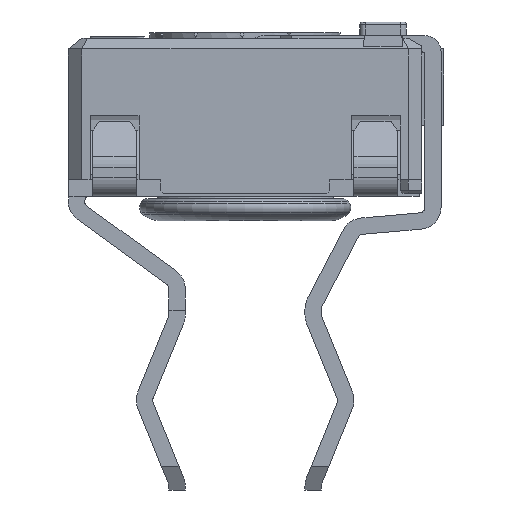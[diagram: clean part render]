
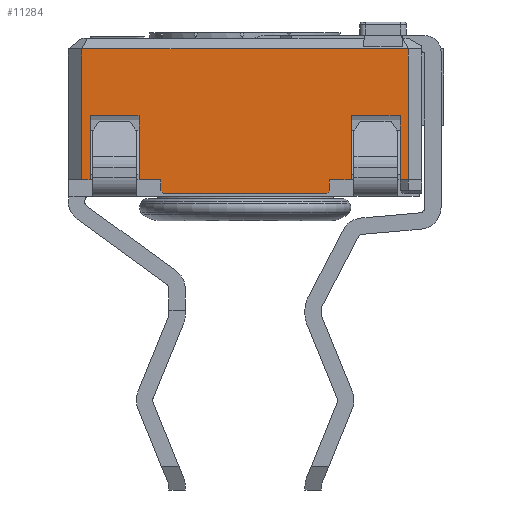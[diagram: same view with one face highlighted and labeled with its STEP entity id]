
A CAD part, left-side view. The second image highlights one B-rep face of the part: STEP entity #11284.
In plain terms, the highlighted planar face has unit normal (-1, 0, 0).
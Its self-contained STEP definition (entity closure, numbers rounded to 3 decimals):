
#1020=FACE_OUTER_BOUND('',#1622,.T.);
#1622=EDGE_LOOP('',(#9661,#9662,#9663,#9664,#9665,#9666,#9667,#9668,#9669,
#9670,#9671,#9672,#9673,#9674,#9675,#9676,#9677,#9678));
#2360=LINE('',#17162,#3632);
#2478=LINE('',#17423,#3750);
#2484=LINE('',#17436,#3756);
#2490=LINE('',#17447,#3762);
#2496=LINE('',#17458,#3768);
#2501=LINE('',#17468,#3773);
#2504=LINE('',#17474,#3776);
#2536=LINE('',#17536,#3808);
#2560=LINE('',#17591,#3832);
#2572=LINE('',#17611,#3844);
#2574=LINE('',#17616,#3846);
#2583=LINE('',#17635,#3855);
#2585=LINE('',#17638,#3857);
#2605=LINE('',#17679,#3877);
#2782=LINE('',#18123,#4054);
#2795=LINE('',#18147,#4067);
#2796=LINE('',#18149,#4068);
#2797=LINE('',#18151,#4069);
#3632=VECTOR('',#13887,10.);
#3750=VECTOR('',#14071,10.);
#3756=VECTOR('',#14079,10.);
#3762=VECTOR('',#14085,10.);
#3768=VECTOR('',#14093,10.);
#3773=VECTOR('',#14100,10.);
#3776=VECTOR('',#14105,10.);
#3808=VECTOR('',#14147,10.);
#3832=VECTOR('',#14199,10.);
#3844=VECTOR('',#14219,10.);
#3846=VECTOR('',#14223,10.);
#3855=VECTOR('',#14244,10.);
#3857=VECTOR('',#14248,10.);
#3877=VECTOR('',#14282,10.);
#4054=VECTOR('',#14707,10.);
#4067=VECTOR('',#14728,10.);
#4068=VECTOR('',#14731,10.);
#4069=VECTOR('',#14734,10.);
#4845=VERTEX_POINT('',#17159);
#4846=VERTEX_POINT('',#17161);
#4955=VERTEX_POINT('',#17420);
#4956=VERTEX_POINT('',#17422);
#4960=VERTEX_POINT('',#17432);
#4962=VERTEX_POINT('',#17435);
#4967=VERTEX_POINT('',#17445);
#4970=VERTEX_POINT('',#17455);
#4974=VERTEX_POINT('',#17465);
#4977=VERTEX_POINT('',#17472);
#5000=VERTEX_POINT('',#17523);
#5002=VERTEX_POINT('',#17535);
#5019=VERTEX_POINT('',#17587);
#5024=VERTEX_POINT('',#17613);
#5029=VERTEX_POINT('',#17634);
#5164=VERTEX_POINT('',#18120);
#5165=VERTEX_POINT('',#18122);
#5172=VERTEX_POINT('',#18145);
#6157=EDGE_CURVE('',#4846,#4845,#2360,.T.);
#6291=EDGE_CURVE('',#4956,#4955,#2478,.T.);
#6297=EDGE_CURVE('',#4962,#4960,#2484,.T.);
#6303=EDGE_CURVE('',#4955,#4967,#2490,.T.);
#6309=EDGE_CURVE('',#4960,#4970,#2496,.T.);
#6314=EDGE_CURVE('',#4970,#4974,#2501,.T.);
#6317=EDGE_CURVE('',#4974,#4977,#2504,.T.);
#6349=EDGE_CURVE('',#5002,#4956,#2536,.T.);
#6379=EDGE_CURVE('',#4845,#5002,#2560,.T.);
#6391=EDGE_CURVE('',#4846,#5019,#2572,.T.);
#6393=EDGE_CURVE('',#4967,#5024,#2574,.T.);
#6402=EDGE_CURVE('',#5029,#5000,#2583,.T.);
#6404=EDGE_CURVE('',#5019,#5000,#2585,.T.);
#6425=EDGE_CURVE('',#4977,#5029,#2605,.T.);
#6643=EDGE_CURVE('',#5164,#5165,#2782,.T.);
#6656=EDGE_CURVE('',#5172,#5024,#2795,.T.);
#6657=EDGE_CURVE('',#5172,#5165,#2796,.T.);
#6658=EDGE_CURVE('',#5164,#4962,#2797,.T.);
#9661=ORIENTED_EDGE('',*,*,#6656,.F.);
#9662=ORIENTED_EDGE('',*,*,#6657,.T.);
#9663=ORIENTED_EDGE('',*,*,#6643,.F.);
#9664=ORIENTED_EDGE('',*,*,#6658,.T.);
#9665=ORIENTED_EDGE('',*,*,#6297,.T.);
#9666=ORIENTED_EDGE('',*,*,#6309,.T.);
#9667=ORIENTED_EDGE('',*,*,#6314,.T.);
#9668=ORIENTED_EDGE('',*,*,#6317,.T.);
#9669=ORIENTED_EDGE('',*,*,#6425,.T.);
#9670=ORIENTED_EDGE('',*,*,#6402,.T.);
#9671=ORIENTED_EDGE('',*,*,#6404,.F.);
#9672=ORIENTED_EDGE('',*,*,#6391,.F.);
#9673=ORIENTED_EDGE('',*,*,#6157,.T.);
#9674=ORIENTED_EDGE('',*,*,#6379,.T.);
#9675=ORIENTED_EDGE('',*,*,#6349,.T.);
#9676=ORIENTED_EDGE('',*,*,#6291,.T.);
#9677=ORIENTED_EDGE('',*,*,#6303,.T.);
#9678=ORIENTED_EDGE('',*,*,#6393,.T.);
#10479=PLANE('',#12136);
#11284=ADVANCED_FACE('',(#1020),#10479,.T.);
#12136=AXIS2_PLACEMENT_3D('',#18332,#14936,#14937);
#13887=DIRECTION('',(0.,-1.,0.));
#14071=DIRECTION('',(0.,0.,-1.));
#14079=DIRECTION('',(0.,-1.,0.));
#14085=DIRECTION('',(0.,-1.,0.));
#14093=DIRECTION('',(0.,0.,1.));
#14100=DIRECTION('',(0.,-1.,0.));
#14105=DIRECTION('',(0.,0.,-1.));
#14147=DIRECTION('',(0.,-1.,0.));
#14199=DIRECTION('',(0.,0.,1.));
#14219=DIRECTION('',(0.,0.,1.));
#14223=DIRECTION('',(0.,0.,-1.));
#14244=DIRECTION('',(0.,0.,1.));
#14248=DIRECTION('',(0.,-1.,0.));
#14282=DIRECTION('',(0.,-1.,0.));
#14707=DIRECTION('',(0.,0.707,-0.707));
#14728=DIRECTION('',(0.,0.707,0.707));
#14731=DIRECTION('',(0.,-1.,0.));
#14734=DIRECTION('',(0.,0.,1.));
#14936=DIRECTION('center_axis',(-1.,0.,0.));
#14937=DIRECTION('ref_axis',(0.,0.,1.));
#17159=CARTESIAN_POINT('',(-14.26,-8.882,0.25));
#17161=CARTESIAN_POINT('',(-14.26,-8.732,0.25));
#17162=CARTESIAN_POINT('',(-14.26,-13.244,0.25));
#17420=CARTESIAN_POINT('',(-14.26,-9.782,0.25));
#17422=CARTESIAN_POINT('',(-14.26,-9.782,1.425));
#17423=CARTESIAN_POINT('',(-14.26,-9.782,0.387));
#17432=CARTESIAN_POINT('',(-14.26,-13.682,0.25));
#17435=CARTESIAN_POINT('',(-14.26,-13.282,0.25));
#17436=CARTESIAN_POINT('',(-14.26,-13.244,0.25));
#17445=CARTESIAN_POINT('',(-14.26,-10.182,0.25));
#17447=CARTESIAN_POINT('',(-14.26,-13.244,0.25));
#17455=CARTESIAN_POINT('',(-14.26,-13.682,1.425));
#17458=CARTESIAN_POINT('',(-14.26,-13.682,0.387));
#17465=CARTESIAN_POINT('',(-14.26,-14.582,1.425));
#17468=CARTESIAN_POINT('',(-14.26,-14.657,1.425));
#17472=CARTESIAN_POINT('',(-14.26,-14.582,0.25));
#17474=CARTESIAN_POINT('',(-14.26,-14.582,0.387));
#17523=CARTESIAN_POINT('',(-14.26,-14.732,2.655));
#17535=CARTESIAN_POINT('',(-14.26,-8.882,1.425));
#17536=CARTESIAN_POINT('',(-14.26,-11.807,1.425));
#17587=CARTESIAN_POINT('',(-14.26,-8.732,2.655));
#17591=CARTESIAN_POINT('',(-14.26,-8.882,0.387));
#17611=CARTESIAN_POINT('',(-14.26,-8.732,0.));
#17613=CARTESIAN_POINT('',(-14.26,-10.182,0.05));
#17616=CARTESIAN_POINT('',(-14.26,-10.182,0.));
#17634=CARTESIAN_POINT('',(-14.26,-14.732,0.25));
#17635=CARTESIAN_POINT('',(-14.26,-14.732,0.));
#17638=CARTESIAN_POINT('',(-14.26,-13.232,2.655));
#17679=CARTESIAN_POINT('',(-14.26,-13.244,0.25));
#18120=CARTESIAN_POINT('',(-14.26,-13.282,0.05));
#18122=CARTESIAN_POINT('',(-14.26,-13.232,0.));
#18123=CARTESIAN_POINT('',(-14.26,-13.619,0.388));
#18145=CARTESIAN_POINT('',(-14.26,-10.232,0.));
#18147=CARTESIAN_POINT('',(-14.26,-11.344,-1.113));
#18149=CARTESIAN_POINT('',(-14.26,-8.732,0.));
#18151=CARTESIAN_POINT('',(-14.26,-13.282,0.));
#18332=CARTESIAN_POINT('Origin',(-14.26,-14.732,0.));
